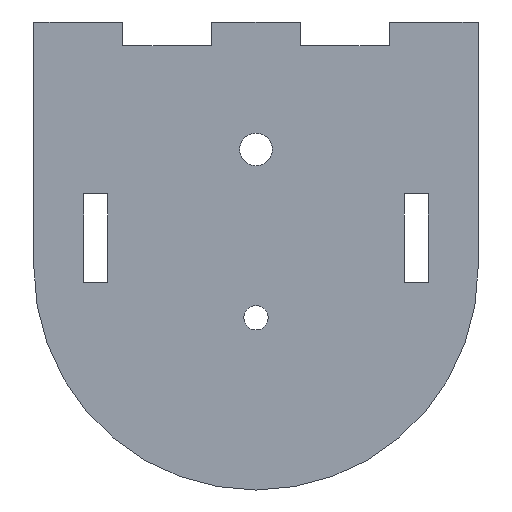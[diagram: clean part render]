
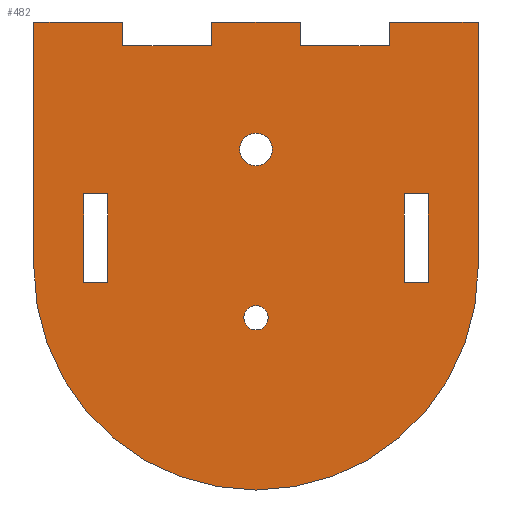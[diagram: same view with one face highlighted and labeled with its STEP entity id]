
A CAD part, front view. The second image highlights one B-rep face of the part: STEP entity #482.
In plain terms, the highlighted planar face has unit normal (0, -1, 0).
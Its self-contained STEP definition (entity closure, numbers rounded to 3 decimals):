
#19=FACE_BOUND('',#72,.T.);
#20=FACE_BOUND('',#73,.T.);
#21=FACE_BOUND('',#74,.T.);
#22=FACE_BOUND('',#75,.T.);
#23=CIRCLE('',#527,5.5);
#27=CIRCLE('',#533,75.);
#28=CIRCLE('',#535,4.1);
#43=FACE_OUTER_BOUND('',#71,.T.);
#71=EDGE_LOOP('',(#380,#381,#382,#383,#384,#385,#386,#387,#388,#389,#390,
#391));
#72=EDGE_LOOP('',(#392,#393,#394,#395));
#73=EDGE_LOOP('',(#396,#397,#398,#399));
#74=EDGE_LOOP('',(#400));
#75=EDGE_LOOP('',(#401));
#90=LINE('',#678,#150);
#94=LINE('',#685,#154);
#97=LINE('',#691,#157);
#99=LINE('',#694,#159);
#102=LINE('',#702,#162);
#106=LINE('',#709,#166);
#109=LINE('',#715,#169);
#111=LINE('',#718,#171);
#126=LINE('',#760,#186);
#127=LINE('',#762,#187);
#128=LINE('',#764,#188);
#129=LINE('',#766,#189);
#130=LINE('',#768,#190);
#131=LINE('',#770,#191);
#132=LINE('',#772,#192);
#133=LINE('',#774,#193);
#134=LINE('',#776,#194);
#135=LINE('',#778,#195);
#136=LINE('',#779,#196);
#150=VECTOR('',#554,10.);
#154=VECTOR('',#560,10.);
#157=VECTOR('',#565,10.);
#159=VECTOR('',#569,10.);
#162=VECTOR('',#574,10.);
#166=VECTOR('',#580,10.);
#169=VECTOR('',#585,10.);
#171=VECTOR('',#589,10.);
#186=VECTOR('',#622,10.);
#187=VECTOR('',#623,10.);
#188=VECTOR('',#624,10.);
#189=VECTOR('',#625,10.);
#190=VECTOR('',#626,10.);
#191=VECTOR('',#627,10.);
#192=VECTOR('',#628,10.);
#193=VECTOR('',#629,10.);
#194=VECTOR('',#630,10.);
#195=VECTOR('',#631,10.);
#196=VECTOR('',#632,10.);
#210=VERTEX_POINT('',#675);
#211=VERTEX_POINT('',#677);
#213=VERTEX_POINT('',#683);
#215=VERTEX_POINT('',#689);
#218=VERTEX_POINT('',#699);
#219=VERTEX_POINT('',#701);
#221=VERTEX_POINT('',#707);
#223=VERTEX_POINT('',#713);
#224=VERTEX_POINT('',#720);
#239=VERTEX_POINT('',#753);
#240=VERTEX_POINT('',#755);
#241=VERTEX_POINT('',#759);
#242=VERTEX_POINT('',#761);
#243=VERTEX_POINT('',#763);
#244=VERTEX_POINT('',#765);
#245=VERTEX_POINT('',#767);
#246=VERTEX_POINT('',#769);
#247=VERTEX_POINT('',#771);
#248=VERTEX_POINT('',#773);
#249=VERTEX_POINT('',#775);
#250=VERTEX_POINT('',#777);
#251=VERTEX_POINT('',#780);
#254=EDGE_CURVE('',#211,#210,#90,.T.);
#258=EDGE_CURVE('',#210,#213,#94,.T.);
#261=EDGE_CURVE('',#213,#215,#97,.T.);
#263=EDGE_CURVE('',#215,#211,#99,.T.);
#266=EDGE_CURVE('',#219,#218,#102,.T.);
#270=EDGE_CURVE('',#218,#221,#106,.T.);
#273=EDGE_CURVE('',#221,#223,#109,.T.);
#275=EDGE_CURVE('',#223,#219,#111,.T.);
#276=EDGE_CURVE('',#224,#224,#23,.T.);
#293=EDGE_CURVE('',#239,#240,#27,.T.);
#295=EDGE_CURVE('',#241,#239,#126,.T.);
#296=EDGE_CURVE('',#242,#241,#127,.T.);
#297=EDGE_CURVE('',#243,#242,#128,.T.);
#298=EDGE_CURVE('',#244,#243,#129,.T.);
#299=EDGE_CURVE('',#245,#244,#130,.T.);
#300=EDGE_CURVE('',#246,#245,#131,.T.);
#301=EDGE_CURVE('',#247,#246,#132,.T.);
#302=EDGE_CURVE('',#248,#247,#133,.T.);
#303=EDGE_CURVE('',#249,#248,#134,.T.);
#304=EDGE_CURVE('',#250,#249,#135,.T.);
#305=EDGE_CURVE('',#240,#250,#136,.T.);
#306=EDGE_CURVE('',#251,#251,#28,.T.);
#380=ORIENTED_EDGE('',*,*,#293,.F.);
#381=ORIENTED_EDGE('',*,*,#295,.F.);
#382=ORIENTED_EDGE('',*,*,#296,.F.);
#383=ORIENTED_EDGE('',*,*,#297,.F.);
#384=ORIENTED_EDGE('',*,*,#298,.F.);
#385=ORIENTED_EDGE('',*,*,#299,.F.);
#386=ORIENTED_EDGE('',*,*,#300,.F.);
#387=ORIENTED_EDGE('',*,*,#301,.F.);
#388=ORIENTED_EDGE('',*,*,#302,.F.);
#389=ORIENTED_EDGE('',*,*,#303,.F.);
#390=ORIENTED_EDGE('',*,*,#304,.F.);
#391=ORIENTED_EDGE('',*,*,#305,.F.);
#392=ORIENTED_EDGE('',*,*,#254,.T.);
#393=ORIENTED_EDGE('',*,*,#258,.T.);
#394=ORIENTED_EDGE('',*,*,#261,.T.);
#395=ORIENTED_EDGE('',*,*,#263,.T.);
#396=ORIENTED_EDGE('',*,*,#266,.T.);
#397=ORIENTED_EDGE('',*,*,#270,.T.);
#398=ORIENTED_EDGE('',*,*,#273,.T.);
#399=ORIENTED_EDGE('',*,*,#275,.T.);
#400=ORIENTED_EDGE('',*,*,#276,.T.);
#401=ORIENTED_EDGE('',*,*,#306,.F.);
#459=PLANE('',#534);
#482=ADVANCED_FACE('',(#43,#19,#20,#21,#22),#459,.F.);
#527=AXIS2_PLACEMENT_3D('',#721,#592,#593);
#533=AXIS2_PLACEMENT_3D('',#756,#617,#618);
#534=AXIS2_PLACEMENT_3D('',#758,#620,#621);
#535=AXIS2_PLACEMENT_3D('',#781,#633,#634);
#554=DIRECTION('',(-1.,0.,0.));
#560=DIRECTION('',(0.,0.,1.));
#565=DIRECTION('',(1.,0.,0.));
#569=DIRECTION('',(0.,0.,-1.));
#574=DIRECTION('',(0.,0.,1.));
#580=DIRECTION('',(1.,0.,0.));
#585=DIRECTION('',(0.,0.,-1.));
#589=DIRECTION('',(-1.,0.,0.));
#592=DIRECTION('center_axis',(0.,1.,0.));
#593=DIRECTION('ref_axis',(-1.,0.,0.));
#617=DIRECTION('center_axis',(0.,1.,0.));
#618=DIRECTION('ref_axis',(-0.707,0.,-0.707));
#620=DIRECTION('center_axis',(0.,1.,0.));
#621=DIRECTION('ref_axis',(0.,0.,1.));
#622=DIRECTION('',(0.,0.,-1.));
#623=DIRECTION('',(1.,0.,0.));
#624=DIRECTION('',(0.,0.,1.));
#625=DIRECTION('',(1.,0.,0.));
#626=DIRECTION('',(0.,0.,-1.));
#627=DIRECTION('',(1.,0.,0.));
#628=DIRECTION('',(0.,0.,1.));
#629=DIRECTION('',(1.,0.,0.));
#630=DIRECTION('',(0.,0.,-1.));
#631=DIRECTION('',(1.,0.,0.));
#632=DIRECTION('',(0.,0.,1.));
#633=DIRECTION('center_axis',(0.,-1.,0.));
#634=DIRECTION('ref_axis',(1.,0.,0.));
#675=CARTESIAN_POINT('',(50.,0.,12.1));
#677=CARTESIAN_POINT('',(58.2,0.,12.1));
#678=CARTESIAN_POINT('',(25.,0.,12.1));
#683=CARTESIAN_POINT('',(50.,0.,42.1));
#685=CARTESIAN_POINT('',(50.,0.,31.6));
#689=CARTESIAN_POINT('',(58.2,0.,42.1));
#691=CARTESIAN_POINT('',(29.1,0.,42.1));
#694=CARTESIAN_POINT('',(58.2,0.,16.6));
#699=CARTESIAN_POINT('',(-58.2,0.,42.1));
#701=CARTESIAN_POINT('',(-58.2,0.,12.1));
#702=CARTESIAN_POINT('',(-58.2,0.,31.6));
#707=CARTESIAN_POINT('',(-50.,0.,42.1));
#709=CARTESIAN_POINT('',(-25.,0.,42.1));
#713=CARTESIAN_POINT('',(-50.,0.,12.1));
#715=CARTESIAN_POINT('',(-50.,0.,16.6));
#718=CARTESIAN_POINT('',(-29.1,0.,12.1));
#720=CARTESIAN_POINT('',(5.5,0.,57.1));
#721=CARTESIAN_POINT('Origin',(0.,0.,57.1));
#753=CARTESIAN_POINT('',(75.,0.,17.1));
#755=CARTESIAN_POINT('',(-75.,0.,17.1));
#756=CARTESIAN_POINT('Origin',(0.,0.,17.1));
#758=CARTESIAN_POINT('Origin',(0.,0.,21.1));
#759=CARTESIAN_POINT('',(75.,0.,100.1));
#760=CARTESIAN_POINT('',(75.,0.,100.1));
#761=CARTESIAN_POINT('',(45.,0.,100.1));
#762=CARTESIAN_POINT('',(-75.,0.,100.1));
#763=CARTESIAN_POINT('',(45.,0.,92.1));
#764=CARTESIAN_POINT('',(45.,0.,92.1));
#765=CARTESIAN_POINT('',(15.,0.,92.1));
#766=CARTESIAN_POINT('',(-75.,0.,92.1));
#767=CARTESIAN_POINT('',(15.,0.,100.1));
#768=CARTESIAN_POINT('',(15.,0.,100.1));
#769=CARTESIAN_POINT('',(-15.,0.,100.1));
#770=CARTESIAN_POINT('',(-75.,0.,100.1));
#771=CARTESIAN_POINT('',(-15.,0.,92.1));
#772=CARTESIAN_POINT('',(-15.,0.,92.1));
#773=CARTESIAN_POINT('',(-45.,0.,92.1));
#774=CARTESIAN_POINT('',(-75.,0.,92.1));
#775=CARTESIAN_POINT('',(-45.,0.,100.1));
#776=CARTESIAN_POINT('',(-45.,0.,100.1));
#777=CARTESIAN_POINT('',(-75.,0.,100.1));
#778=CARTESIAN_POINT('',(-75.,0.,100.1));
#779=CARTESIAN_POINT('',(-75.,0.,-57.9));
#780=CARTESIAN_POINT('',(-4.1,0.,0.228));
#781=CARTESIAN_POINT('Origin',(0.,0.,0.228));
